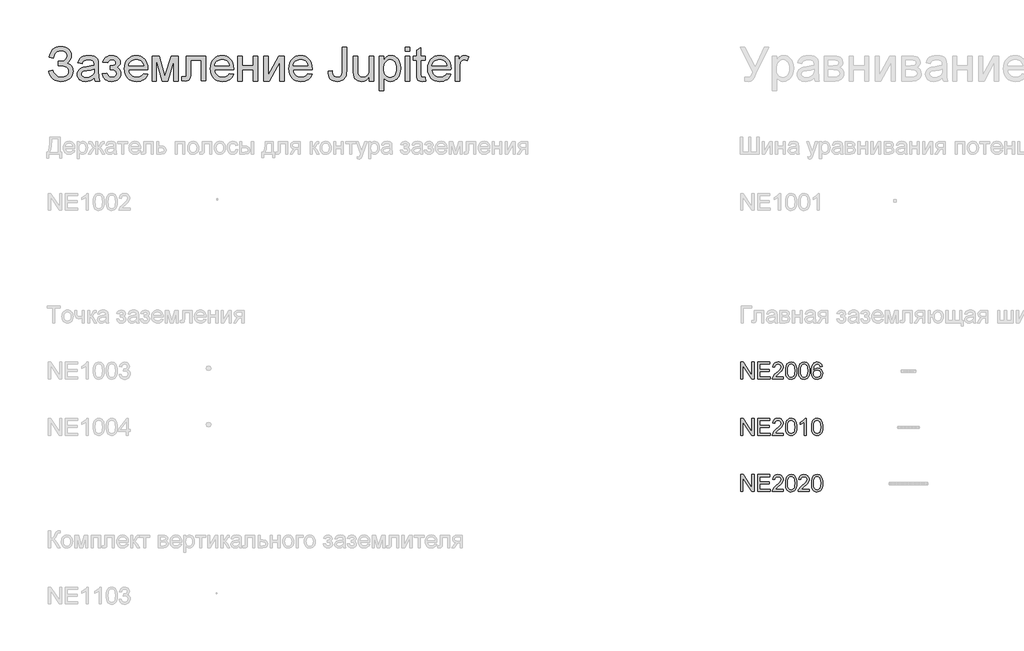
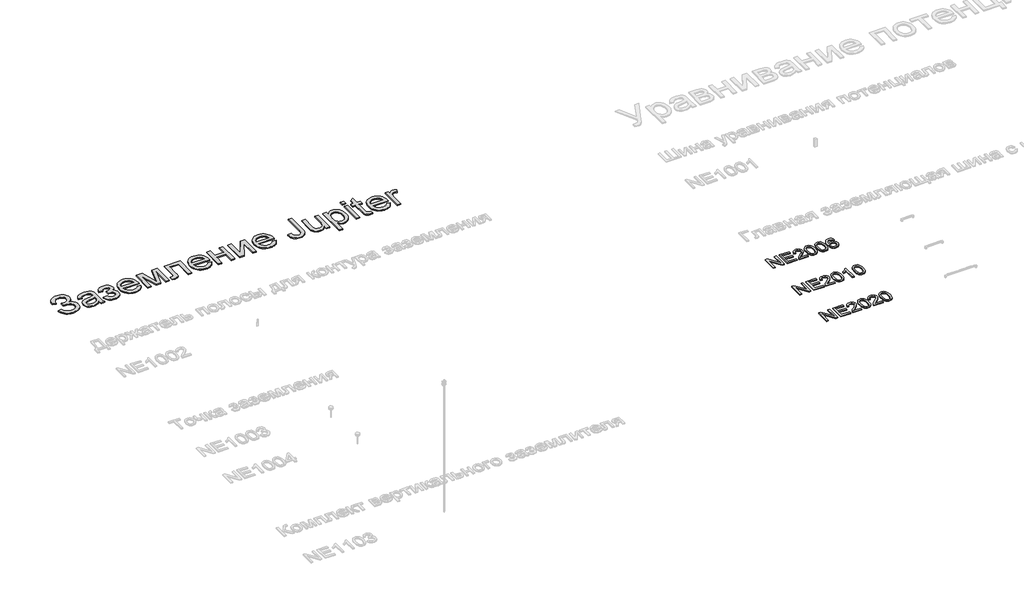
# One storey, part 78 of 124: 4 proxies.
"""IFC4 building model written with IfcOpenShell, lengths in millimetres."""

from ifc_helpers import new_model, si_unit, origin, origin_with_axes, place, context, project, spatial, polyline, outline, extrude, element, save

model = new_model("IFC4")

# Units and contexts
model_context = context("Model", 3, world=origin())
ifc_project = project(units=[si_unit("LENGTHUNIT", "METRE", prefix="MILLI")], contexts=[model_context])

# Site, building, storey
site = spatial("IfcSite", under=ifc_project)
building = spatial("IfcBuilding", under=site)
storey = spatial("IfcBuildingStorey", under=building, Name="Этаж 01", Elevation=0.0)

# Proxies
placement = place(None, origin())
element("IfcBuildingElementProxy", 1, Name="600 мм Arial", ObjectType="600 мм Arial", at=placement, inside=storey, context=model_context, shape_type="SweptSolid", body=[
    extrude(outline(polyline([(32944.5764277, -48604.9783386), (33019.9186603, -48586.1427805), (33026.0668881, -48606.5280415), (33035.8295566, -48626.9224996), (33066.1982153, -48667.739007), (33086.5282941, -48685.6042764), (33109.9209904, -48698.3651831), (33136.3763044, -48706.0217271), (33165.894236, -48708.5739085), (33195.9272024, -48706.6563236), (33222.6032455, -48700.9035689), (33245.9223655, -48691.3156444), (33265.8845623, -48677.8925501), (33281.8828305, -48661.7563261), (33293.310165, -48644.0290124), (33300.1665657, -48624.7106091), (33302.4520326, -48603.8011162), (33299.9550336, -48581.53046), (33292.4640364, -48561.6602337), (33279.9790412, -48544.1904374), (33262.5000479, -48529.1210712), (33240.7168353, -48516.9855639), (33215.319182, -48508.3173444), (33186.3070882, -48503.1164127), (33153.6805537, -48501.3827688), (33114.0964511, -48501.3827688), (33114.0964511, -48426.0405362), (33163.3006679, -48424.5138259), (33199.3714975, -48419.9336951), (33227.1649823, -48409.0811762), (33251.5371645, -48388.7373019), (33268.5333126, -48361.9370985), (33274.1986954, -48331.7155926), (33272.3133001, -48313.3536825), (33266.6571145, -48296.2333742), (33257.2301383, -48280.3546676), (33244.0323718, -48265.7175627), (33227.6156377, -48253.4532967), (33208.5317592, -48244.6931066), (33186.7807363, -48239.4369926), (33162.3625688, -48237.6849546), (33120.6263565, -48243.0744259), (33085.4752318, -48259.2428396), (33058.5462698, -48284.3139975), (33041.4765452, -48316.4117016), (33032.3714658, -48347.4977302), (33029.3364394, -48369.5338617), (32953.9942068, -48350.6983036), (32963.3223146, -48306.5524641), (32977.4006987, -48268.2927366), (32996.2293591, -48235.9191211), (33019.8082957, -48209.4316174), (33048.1375086, -48188.8302257), (33081.2169977, -48174.1149459), (33119.0467632, -48165.285778), (33161.6268048, -48162.342722), (33202.6502458, -48165.4007411), (33239.1947235, -48174.5747984), (33271.2602379, -48189.8648938), (33298.846789, -48211.2710274), (33321.0254748, -48236.7698482), (33336.8673932, -48264.3380052), (33346.3725443, -48293.9754984), (33349.540928, -48325.6823279), (33344.6113092, -48365.3308099), (33329.822453, -48400.2520083), (33305.1743594, -48430.4459231), (33270.6670282, -48455.9125542), (33292.5468099, -48463.900192), (33312.5687875, -48475.2079648), (33330.732961, -48489.8358727), (33347.0393304, -48507.7839155), (33360.4946144, -48528.3531176), (33370.1055315, -48550.844503), (33375.8720818, -48575.2580719), (33377.7942652, -48601.5938243), (33374.1062482, -48638.8556719), (33363.0421972, -48672.9445372), (33344.6021122, -48703.8604204), (33318.7859932, -48731.6033214), (33286.8814271, -48754.49018), (33250.1760011, -48770.8379361), (33208.669715, -48780.6465898), (33162.3625688, -48783.9161411), (33122.3278107, -48781.1202379), (33085.9534784, -48772.7325284), (33053.239572, -48758.7530126), (33024.1860914, -48739.1816905), (32998.7930367, -48714.018562), (32977.0604079, -48683.2636272), (32958.9882048, -48646.9168861), (32944.5764277, -48604.9783386)])), origin_with_axes(), (0.0, 0.0, 1.0), 20.0),
    extrude(outline(polyline([(33754.5054283, -48717.9916875), (33718.508175, -48748.8569869), (33681.444064, -48769.0537085), (33642.4669666, -48780.2005329), (33600.7307543, -48783.9161411), (33567.1845148, -48781.681258), (33537.7677508, -48774.9766086), (33512.4804622, -48763.802193), (33491.3226489, -48748.1580111), (33474.6162078, -48729.0373444), (33462.6830356, -48707.4334743), (33455.5231323, -48683.3464006), (33453.1364978, -48656.7761235), (33456.7417414, -48625.5429422), (33467.557472, -48597.1792403), (33484.2409205, -48572.8990286), (33505.4493175, -48553.9163177), (33530.3733227, -48539.5689199), (33558.2035956, -48529.1946476), (33623.3922852, -48517.8638822), (33700.426775, -48505.9445055), (33754.0639699, -48491.9649897), (33754.5054283, -48475.1895707), (33749.3182921, -48441.5651564), (33742.834372, -48429.1123508), (33733.7568837, -48419.5658131), (33718.0667166, -48410.0376694), (33698.955247, -48403.2318525), (33650.4684, -48397.7871989), (33605.5867966, -48401.4108366), (33574.2432506, -48412.2817496), (33552.8693067, -48432.3865006), (33537.8965095, -48463.7116525), (33462.5542769, -48454.2938734), (33475.6324818, -48413.0910899), (33495.1486217, -48380.7174744), (33522.9237123, -48355.9590161), (33560.7787696, -48337.6017045), (33607.0767187, -48326.2341509), (33660.1804847, -48322.4449663), (33711.1137469, -48325.7926925), (33751.4887959, -48335.835871), (33781.931031, -48350.9374269), (33803.0658516, -48369.4602853), (33817.0821556, -48392.3609395), (33826.1688409, -48420.5958826), (33829.8476609, -48486.5203362), (33829.8476609, -48580.2566685), (33833.6736336, -48711.1490824), (33839.3390164, -48743.5043039), (33848.683219, -48774.498362), (33773.3409864, -48774.498362), (33761.274457, -48748.3051639), (33754.5054283, -48717.9916875)]), holes=[polyline([(33754.5054283, -48567.3072223), (33703.8848657, -48579.8519984), (33632.9572171, -48590.4102116), (33568.1364095, -48602.6238939), (33551.26902, -48610.9748151), (33538.7794263, -48622.4895216), (33531.0539044, -48636.2850964), (33528.4787304, -48651.4786228), (33534.0889309, -48673.8826363), (33550.9195321, -48692.2399479), (33578.6026523, -48704.4904183), (33616.7704093, -48708.5739085), (33657.2374287, -48704.067354), (33692.9955587, -48690.5476907), (33721.9846599, -48670.6268807), (33742.1445932, -48646.9168861), (33751.0841257, -48622.4895216), (33754.0639699, -48588.644378), (33754.5054283, -48567.3072223)])]), origin_with_axes(), (0.0, 0.0, 1.0), 20.0),
    extrude(outline(polyline([(34037.0388006, -48576.7250014), (34037.0388006, -48501.3827688), (34096.488531, -48498.4397128), (34111.9395748, -48493.1973944), (34126.5077018, -48482.7679398), (34137.1027033, -48468.0710541), (34140.6343704, -48450.0264423), (34135.9070868, -48428.597316), (34121.7252359, -48411.987444), (34100.0753804, -48401.3372602), (34072.9440833, -48397.7871989), (34045.5184806, -48401.3188661), (34022.54425, -48411.9138676), (34004.0213915, -48429.5722033), (33989.9499052, -48454.2938734), (33905.1898935, -48444.8760943), (33914.9663575, -48416.1812987), (33927.6674834, -48391.3124758), (33943.2932711, -48370.2696257), (33961.8437208, -48353.0527483), (33983.3188322, -48339.6618437), (34007.7186055, -48330.0969118), (34035.0430407, -48324.3579527), (34065.2921378, -48322.4449663), (34098.695823, -48324.7764185), (34128.2735354, -48331.7707749), (34154.025275, -48343.4280356), (34175.9510419, -48359.7482006), (34193.4622249, -48379.3057272), (34205.9702127, -48400.6750726), (34213.4750055, -48423.8562368), (34215.976603, -48448.8492199), (34212.4173447, -48473.5708899), (34201.7395698, -48495.6438097), (34183.9432783, -48515.067979), (34159.0284702, -48531.843398), (34188.1095419, -48552.7758835), (34208.8396923, -48578.7851406), (34221.2557096, -48609.9447456), (34225.3943821, -48646.3282749), (34222.7686244, -48675.4967186), (34214.8913511, -48701.7864857), (34201.7625624, -48725.1975761), (34183.3822582, -48745.72999), (34160.2838675, -48762.4364311), (34133.000819, -48774.3696033), (34101.5331128, -48781.5295066), (34065.880749, -48783.9161411), (34031.129696, -48781.7088491), (34000.2322069, -48775.0869732), (33973.1882818, -48764.0505133), (33949.9979205, -48748.5994695), (33930.6611231, -48728.7338418), (33915.1778897, -48704.4536301), (33903.5482201, -48675.7588345), (33895.7721144, -48642.6494549), (33980.5321261, -48633.2316759), (33993.2240549, -48665.0902566), (34014.5244225, -48688.8554335), (34041.9684193, -48703.6442897), (34073.0912361, -48708.5739085), (34103.4047125, -48703.8466248), (34128.1263826, -48689.6647739), (34144.5707078, -48668.1252831), (34150.0521495, -48641.3250797), (34146.649241, -48620.0982886), (34136.4405157, -48601.7409771), (34122.3874234, -48587.9821904), (34107.4514144, -48580.5509741), (34051.7540804, -48576.283543), (34037.0388006, -48576.7250014)])), origin_with_axes(), (0.0, 0.0, 1.0), 20.0),
    extrude(outline(polyline([(34629.4759656, -48642.6494549), (34703.3466702, -48652.067234), (34692.0205033, -48681.6541435), (34676.7304079, -48707.7277799), (34657.476384, -48730.2881432), (34634.2584315, -48749.3352335), (34607.3156739, -48764.4643806), (34576.8872344, -48775.2709142), (34542.973113, -48781.7548344), (34505.5733096, -48783.9161411), (34458.8247051, -48780.1867374), (34417.1712662, -48768.9985262), (34380.6129929, -48750.3515075), (34349.1498853, -48724.2456815), (34323.8488011, -48691.4076149), (34305.776598, -48652.5638747), (34294.9332762, -48607.714461), (34291.3188356, -48556.8593737), (34294.9700644, -48504.2798395), (34305.9237508, -48457.9359052), (34324.1798948, -48417.8275706), (34349.7384965, -48383.9548359), (34381.1188307, -48357.044268), (34416.8401724, -48337.8224337), (34456.9025217, -48326.2893332), (34501.3058785, -48322.4449663), (34544.279094, -48326.2801361), (34583.1412283, -48337.7856455), (34617.8922813, -48356.9614945), (34648.5322529, -48383.8076831), (34673.5436301, -48417.6068414), (34691.4088995, -48457.6415996), (34702.1280611, -48503.9119575), (34705.701115, -48556.4179153), (34705.2596566, -48576.7250014), (34366.6610682, -48576.7250014), (34371.0250684, -48606.7901575), (34379.702485, -48633.1213113), (34392.6933179, -48655.7184628), (34409.9975673, -48674.5816121), (34430.6587398, -48689.4532418), (34453.7203424, -48700.0758344), (34479.182375, -48706.4493899), (34507.0448376, -48708.5739085), (34547.1439751, -48704.6375711), (34580.9155422, -48692.8285591), (34608.3595391, -48672.4111083), (34629.4759656, -48642.6494549)]), holes=[polyline([(34366.6610682, -48501.3827688), (34630.3588824, -48501.3827688), (34620.1685511, -48461.5779369), (34611.4037626, -48445.924558), (34600.1925588, -48433.1038705), (34579.6463494, -48417.6528267), (34556.2674486, -48406.6163668), (34530.0558564, -48399.9944909), (34501.0115729, -48397.7871989), (34474.5194707, -48399.548434), (34450.2254634, -48404.8321391), (34428.1295511, -48413.6383144), (34408.2317337, -48425.9669598), (34391.5344896, -48441.2478581), (34379.0402974, -48458.9107924), (34370.7491569, -48478.9557627), (34366.6610682, -48501.3827688)])]), origin_with_axes(), (0.0, 0.0, 1.0), 20.0),
    extrude(outline(polyline([(34781.0433476, -48331.8627454), (34910.6849627, -48331.8627454), (35010.6017126, -48686.2066832), (35118.3175608, -48331.8627454), (35242.5145224, -48331.8627454), (35242.5145224, -48774.498362), (35167.1722897, -48774.498362), (35167.1722897, -48418.0942851), (35058.8678304, -48774.498362), (34959.9811501, -48774.498362), (34856.3855802, -48401.0245605), (34856.3855802, -48774.498362), (34781.0433476, -48774.498362), (34781.0433476, -48331.8627454)])), origin_with_axes(), (0.0, 0.0, 1.0), 20.0),
    extrude(outline(polyline([(35393.1989876, -48331.8627454), (35732.2390343, -48331.8627454), (35732.2390343, -48774.0569036), (35656.8968017, -48774.0569036), (35656.8968017, -48407.204978), (35468.5412202, -48407.204978), (35468.5412202, -48618.3692432), (35467.2720273, -48679.6583836), (35463.4644487, -48715.7843956), (35453.9546991, -48737.8389212), (35435.5789934, -48756.9136026), (35407.6935382, -48770.1021722), (35369.6545399, -48774.498362), (35308.4389759, -48770.6723893), (35308.4389759, -48699.1561294), (35342.1369667, -48699.1561294), (35362.5728115, -48697.9973011), (35376.2028394, -48694.5208163), (35384.7193076, -48688.5243397), (35389.8144732, -48679.8055364), (35393.1989876, -48614.1018121), (35393.1989876, -48331.8627454)])), origin_with_axes(), (0.0, 0.0, 1.0), 20.0),
    extrude(outline(polyline([(36155.156176, -48642.6494549), (36229.0268806, -48652.067234), (36217.7007137, -48681.6541435), (36202.4106183, -48707.7277799), (36183.1565944, -48730.2881432), (36159.9386419, -48749.3352335), (36132.9958843, -48764.4643806), (36102.5674448, -48775.2709142), (36068.6533234, -48781.7548344), (36031.25352, -48783.9161411), (35984.5049155, -48780.1867374), (35942.8514766, -48768.9985262), (35906.2932033, -48750.3515075), (35874.8300957, -48724.2456815), (35849.5290115, -48691.4076149), (35831.4568084, -48652.5638747), (35820.6134866, -48607.714461), (35816.999046, -48556.8593737), (35820.6502748, -48504.2798395), (35831.6039612, -48457.9359052), (35849.8601052, -48417.8275706), (35875.4187069, -48383.9548359), (35906.7990411, -48357.044268), (35942.5203828, -48337.8224337), (35982.5827321, -48326.2893332), (36026.9860889, -48322.4449663), (36069.9593044, -48326.2801361), (36108.8214387, -48337.7856455), (36143.5724917, -48356.9614945), (36174.2124633, -48383.8076831), (36199.2238405, -48417.6068414), (36217.0891099, -48457.6415996), (36227.8082715, -48503.9119575), (36231.3813254, -48556.4179153), (36230.939867, -48576.7250014), (35892.3412786, -48576.7250014), (35896.7052788, -48606.7901575), (35905.3826954, -48633.1213113), (35918.3735283, -48655.7184628), (35935.6777777, -48674.5816121), (35956.3389502, -48689.4532418), (35979.4005528, -48700.0758344), (36004.8625854, -48706.4493899), (36032.725048, -48708.5739085), (36072.8241855, -48704.6375711), (36106.5957526, -48692.8285591), (36134.0397495, -48672.4111083), (36155.156176, -48642.6494549)]), holes=[polyline([(35892.3412786, -48501.3827688), (36156.0390928, -48501.3827688), (36145.8487615, -48461.5779369), (36137.083973, -48445.924558), (36125.8727692, -48433.1038705), (36105.3265597, -48417.6528267), (36081.947659, -48406.6163668), (36055.7360668, -48399.9944909), (36026.6917833, -48397.7871989), (36000.1996811, -48399.548434), (35975.9056738, -48404.8321391), (35953.8097615, -48413.6383144), (35933.9119441, -48425.9669598), (35917.2147, -48441.2478581), (35904.7205078, -48458.9107924), (35896.4293673, -48478.9557627), (35892.3412786, -48501.3827688)])]), origin_with_axes(), (0.0, 0.0, 1.0), 20.0),
    extrude(outline(polyline([(36306.723558, -48331.8627454), (36382.0657906, -48331.8627454), (36382.0657906, -48501.3827688), (36579.8391512, -48501.3827688), (36579.8391512, -48331.8627454), (36655.1813838, -48331.8627454), (36655.1813838, -48774.498362), (36579.8391512, -48774.498362), (36579.8391512, -48576.7250014), (36382.0657906, -48576.7250014), (36382.0657906, -48774.498362), (36306.723558, -48774.498362), (36306.723558, -48331.8627454)])), origin_with_axes(), (0.0, 0.0, 1.0), 20.0),
    extrude(outline(polyline([(36768.1947328, -48331.8627454), (36843.5369654, -48331.8627454), (36843.5369654, -48669.4312642), (37028.6551853, -48331.8627454), (37126.0703377, -48331.8627454), (37126.0703377, -48774.498362), (37050.7281051, -48774.498362), (37050.7281051, -48438.9899824), (36866.7871075, -48774.498362), (36768.1947328, -48774.498362), (36768.1947328, -48331.8627454)])), origin_with_axes(), (0.0, 0.0, 1.0), 20.0),
    extrude(outline(polyline([(37548.9874793, -48642.6494549), (37622.858184, -48652.067234), (37611.532017, -48681.6541435), (37596.2419216, -48707.7277799), (37576.9878977, -48730.2881432), (37553.7699453, -48749.3352335), (37526.8271876, -48764.4643806), (37496.3987481, -48775.2709142), (37462.4846267, -48781.7548344), (37425.0848233, -48783.9161411), (37378.3362188, -48780.1867374), (37336.6827799, -48768.9985262), (37300.1245066, -48750.3515075), (37268.661399, -48724.2456815), (37243.3603148, -48691.4076149), (37225.2881118, -48652.5638747), (37214.44479, -48607.714461), (37210.8303494, -48556.8593737), (37214.4815782, -48504.2798395), (37225.4352646, -48457.9359052), (37243.6914086, -48417.8275706), (37269.2500102, -48383.9548359), (37300.6303444, -48357.044268), (37336.3516861, -48337.8224337), (37376.4140354, -48326.2893332), (37420.8173922, -48322.4449663), (37463.7906078, -48326.2801361), (37502.652742, -48337.7856455), (37537.403795, -48356.9614945), (37568.0437667, -48383.8076831), (37593.0551438, -48417.6068414), (37610.9204132, -48457.6415996), (37621.6395748, -48503.9119575), (37625.2126287, -48556.4179153), (37624.7711703, -48576.7250014), (37286.172582, -48576.7250014), (37290.5365821, -48606.7901575), (37299.2139987, -48633.1213113), (37312.2048316, -48655.7184628), (37329.509081, -48674.5816121), (37350.1702536, -48689.4532418), (37373.2318561, -48700.0758344), (37398.6938887, -48706.4493899), (37426.5563513, -48708.5739085), (37466.6554888, -48704.6375711), (37500.427056, -48692.8285591), (37527.8710528, -48672.4111083), (37548.9874793, -48642.6494549)]), holes=[polyline([(37286.172582, -48501.3827688), (37549.8703961, -48501.3827688), (37539.6800648, -48461.5779369), (37530.9152763, -48445.924558), (37519.7040725, -48433.1038705), (37499.1578631, -48417.6528267), (37475.7789623, -48406.6163668), (37449.5673701, -48399.9944909), (37420.5230866, -48397.7871989), (37394.0309844, -48399.548434), (37369.7369772, -48404.8321391), (37347.6410648, -48413.6383144), (37327.7432474, -48425.9669598), (37311.0460034, -48441.2478581), (37298.5518111, -48458.9107924), (37290.2606706, -48478.9557627), (37286.172582, -48501.3827688)])]), origin_with_axes(), (0.0, 0.0, 1.0), 20.0),
    extrude(outline(polyline([(37907.746001, -48605.2726442), (37983.0882336, -48595.5605595), (37985.746181, -48625.515351), (37990.9241201, -48650.3381886), (37998.6220509, -48670.0290724), (38008.8399733, -48684.5880024), (38021.4215375, -48695.0818363), (38036.2103937, -48702.5774319), (38053.2065419, -48707.0747893), (38072.4099821, -48708.5739085), (38100.240255, -48705.171), (38123.9870378, -48694.9622746), (38142.3075611, -48678.8858315), (38153.8590558, -48657.8797695), (38159.984291, -48627.4743226), (38162.0260361, -48583.1997245), (38162.0260361, -48171.7605011), (38237.3682687, -48171.7605011), (38237.3682687, -48581.8753493), (38232.8249261, -48648.9586311), (38227.1457478, -48676.0853298), (38219.1948981, -48698.9354002), (38208.7746406, -48718.4193504), (38195.6872386, -48735.4476882), (38179.9326922, -48750.0204137), (38161.5110013, -48762.137527), (38118.5975666, -48778.4714875), (38068.8783149, -48783.9161411), (38031.7498245, -48781.1064423), (37999.2382532, -48772.6773461), (37971.3436009, -48758.6288524), (37948.0658677, -48738.9609613), (37929.8189207, -48713.747249), (37917.0166273, -48683.0612921), (37909.6589874, -48646.9030905), (37907.746001, -48605.2726442)])), origin_with_axes(), (0.0, 0.0, 1.0), 20.0),
    extrude(outline(polyline([(38642.332769, -48774.498362), (38642.332769, -48698.4203654), (38615.0727131, -48735.8247673), (38583.324497, -48762.5421972), (38547.0881204, -48778.5726551), (38506.3635836, -48783.9161411), (38469.6673545, -48780.1637447), (38435.5095113, -48768.9065557), (38406.8515039, -48751.9839839), (38386.6547823, -48731.2354394), (38373.0615426, -48706.0355227), (38364.2139806, -48675.7588345), (38359.7993967, -48605.7141026), (38359.7993967, -48331.8627454), (38435.1416293, -48331.8627454), (38435.1416293, -48570.2502783), (38436.2820635, -48617.9277849), (38439.703366, -48647.0640389), (38450.6846436, -48672.6870198), (38469.5018077, -48692.1663715), (38494.9040594, -48704.4720242), (38525.6406001, -48708.5739085), (38558.1429744, -48704.3800537), (38588.5484213, -48691.7984895), (38613.6195793, -48671.988044), (38630.1190867, -48646.1075457), (38639.2793484, -48610.6621154), (38642.332769, -48562.1568744), (38642.332769, -48331.8627454), (38717.6750016, -48331.8627454), (38717.6750016, -48774.498362), (38642.332769, -48774.498362)])), origin_with_axes(), (0.0, 0.0, 1.0), 20.0),
    extrude(outline(polyline([(38821.2705714, -48944.0183854), (38821.2705714, -48331.8627454), (38896.6128041, -48331.8627454), (38896.6128041, -48405.73345), (38921.1873213, -48369.2947384), (38948.7048946, -48343.2670873), (38980.7842045, -48327.6504966), (39019.043932, -48322.4449663), (39045.3199036, -48324.2659822), (39069.9955884, -48329.7290298), (39093.0709865, -48338.8341092), (39114.546098, -48351.5812203), (39133.9518732, -48367.6392694), (39150.8192627, -48386.6771627), (39165.1482664, -48408.6949001), (39176.9388844, -48433.6924817), (39192.721022, -48489.2058747), (39197.9817345, -48549.7960393), (39192.0404403, -48614.2305708), (39184.6138225, -48643.8956552), (39174.2165576, -48671.8592853), (39160.9911999, -48697.3902958), (39145.0803036, -48719.7575211), (39126.4838687, -48738.9609613), (39105.2018953, -48755.0006163), (39082.2782485, -48767.6511584), (39058.7567934, -48776.6872599), (39034.6375301, -48782.1089208), (39009.9204586, -48783.9161411), (38975.2843687, -48779.0784928), (38944.363887, -48764.5655481), (38917.8947775, -48742.6581753), (38896.6128041, -48715.6372428), (38896.6128041, -48944.0183854), (38821.2705714, -48944.0183854)]), holes=[polyline([(38896.6128041, -48556.7122209), (38898.6499506, -48593.0221738), (38904.7613902, -48624.2553552), (38914.947123, -48650.411765), (38929.2071488, -48671.4914034), (38946.3734424, -48687.7149993), (38965.2779785, -48699.3032822), (38985.9207569, -48706.2562519), (39008.3017778, -48708.5739085), (39031.0046954, -48706.1734784), (39052.0245529, -48698.9721884), (39071.3613503, -48686.9700383), (39089.0150875, -48670.1670282), (39103.7257688, -48648.3240347), (39114.2333983, -48621.2019346), (39120.537976, -48588.8007279), (39122.6395019, -48551.1204145), (39120.5885598, -48515.1231613), (39114.4357334, -48483.9451622), (39104.1810228, -48457.5864173), (39089.8244279, -48436.0469264), (39072.6167476, -48419.3082957), (39053.8087806, -48407.3521308), (39033.4005269, -48400.1784319), (39011.3919865, -48397.7871989), (38989.4524241, -48400.3301832), (38968.8096456, -48407.9591361), (38949.4636512, -48420.6740576), (38931.4144408, -48438.4749476), (38916.1887247, -48461.1226829), (38905.3132132, -48488.3781403), (38898.7879063, -48520.2413196), (38896.6128041, -48556.7122209)])]), origin_with_axes(), (0.0, 0.0, 1.0), 20.0),
    extrude(outline(polyline([(39282.7417462, -48247.1027337), (39282.7417462, -48171.7605011), (39358.0839788, -48171.7605011), (39358.0839788, -48247.1027337), (39282.7417462, -48247.1027337)])), origin_with_axes(), (0.0, 0.0, 1.0), 20.0),
    extrude(outline(polyline([(39282.7417462, -48774.498362), (39282.7417462, -48331.8627454), (39358.0839788, -48331.8627454), (39358.0839788, -48774.498362), (39282.7417462, -48774.498362)])), origin_with_axes(), (0.0, 0.0, 1.0), 20.0),
    extrude(outline(polyline([(39631.199572, -48711.6641172), (39640.6173511, -48776.705654), (39584.2578294, -48783.9161411), (39548.0950293, -48780.7891441), (39521.1292791, -48771.4081532), (39502.0729917, -48756.9503908), (39489.6385803, -48738.5930793), (39482.7959752, -48707.0655923), (39480.5151068, -48653.0973036), (39480.5151068, -48407.204978), (39424.0084323, -48407.204978), (39424.0084323, -48331.8627454), (39480.5151068, -48331.8627454), (39480.5151068, -48224.29405), (39555.8573394, -48180.0010578), (39555.8573394, -48331.8627454), (39631.199572, -48331.8627454), (39631.199572, -48407.204978), (39555.8573394, -48407.204978), (39555.8573394, -48650.8900116), (39559.830465, -48689.7383503), (39572.7063348, -48703.4971369), (39583.5772477, -48707.3047156), (39598.3844981, -48708.5739085), (39631.199572, -48711.6641172)])), origin_with_axes(), (0.0, 0.0, 1.0), 20.0),
    extrude(outline(polyline([(40016.4455974, -48642.6494549), (40090.316302, -48652.067234), (40078.9901351, -48681.6541435), (40063.7000397, -48707.7277799), (40044.4460157, -48730.2881432), (40021.2280633, -48749.3352335), (39994.2853057, -48764.4643806), (39963.8568662, -48775.2709142), (39929.9427447, -48781.7548344), (39892.5429414, -48783.9161411), (39845.7943369, -48780.1867374), (39804.140898, -48768.9985262), (39767.5826247, -48750.3515075), (39736.119517, -48724.2456815), (39710.8184328, -48691.4076149), (39692.7462298, -48652.5638747), (39681.902908, -48607.714461), (39678.2884674, -48556.8593737), (39681.9396962, -48504.2798395), (39692.8933826, -48457.9359052), (39711.1495266, -48417.8275706), (39736.7081282, -48383.9548359), (39768.0884624, -48357.044268), (39803.8098042, -48337.8224337), (39843.8721534, -48326.2893332), (39888.2755103, -48322.4449663), (39931.2487258, -48326.2801361), (39970.1108601, -48337.7856455), (40004.861913, -48356.9614945), (40035.5018847, -48383.8076831), (40060.5132619, -48417.6068414), (40078.3785313, -48457.6415996), (40089.0976929, -48503.9119575), (40092.6707468, -48556.4179153), (40092.2292884, -48576.7250014), (39753.6307, -48576.7250014), (39757.9947002, -48606.7901575), (39766.6721167, -48633.1213113), (39779.6629497, -48655.7184628), (39796.967199, -48674.5816121), (39817.6283716, -48689.4532418), (39840.6899742, -48700.0758344), (39866.1520068, -48706.4493899), (39894.0144694, -48708.5739085), (39934.1136068, -48704.6375711), (39967.885174, -48692.8285591), (39995.3291708, -48672.4111083), (40016.4455974, -48642.6494549)]), holes=[polyline([(39753.6307, -48501.3827688), (40017.3285142, -48501.3827688), (40007.1381829, -48461.5779369), (39998.3733944, -48445.924558), (39987.1621906, -48433.1038705), (39966.6159811, -48417.6528267), (39943.2370803, -48406.6163668), (39917.0254882, -48399.9944909), (39887.9812047, -48397.7871989), (39861.4891025, -48399.548434), (39837.1950952, -48404.8321391), (39815.0991829, -48413.6383144), (39795.2013655, -48425.9669598), (39778.5041214, -48441.2478581), (39766.0099292, -48458.9107924), (39757.7187887, -48478.9557627), (39753.6307, -48501.3827688)])]), origin_with_axes(), (0.0, 0.0, 1.0), 20.0),
    extrude(outline(polyline([(40168.0129794, -48774.498362), (40168.0129794, -48331.8627454), (40233.9374329, -48331.8627454), (40233.9374329, -48397.3457405), (40258.291221, -48359.3803186), (40280.7320227, -48337.0130933), (40303.2464008, -48326.0869981), (40327.8209181, -48322.4449663), (40365.3448816, -48328.2575019), (40403.4574563, -48345.6951084), (40378.2943278, -48413.2382427), (40351.8068242, -48401.6499599), (40325.3193205, -48397.7871989), (40302.8233365, -48401.5028071), (40282.7185855, -48412.6496315), (40266.4765954, -48430.3815437), (40255.5688942, -48453.852415), (40246.4086326, -48495.9381153), (40243.355212, -48541.8497883), (40243.355212, -48774.498362), (40168.0129794, -48774.498362)])), origin_with_axes(), (0.0, 0.0, 1.0), 20.0),
])
element("IfcBuildingElementProxy", 2, Name="300", ObjectType="300", at=placement, inside=storey, context=model_context, shape_type="SweptSolid", body=[
    extrude(outline(polyline([(45239.8675381, -54074.498362), (45239.8675381, -53773.1294316), (45280.1874048, -53773.1294316), (45437.6408988, -54011.8848464), (45437.6408988, -53773.1294316), (45475.3120151, -53773.1294316), (45475.3120151, -54074.498362), (45434.9921484, -54074.498362), (45277.5386545, -53835.6693707), (45277.5386545, -54074.498362), (45239.8675381, -54074.498362)])), origin_with_axes(), (0.0, 0.0, 1.0), 20.0),
    extrude(outline(polyline([(45541.2364686, -54074.498362), (45541.2364686, -53773.1294316), (45757.8453874, -53773.1294316), (45757.8453874, -53810.8005479), (45578.9075849, -53810.8005479), (45578.9075849, -53900.2694491), (45748.4276083, -53900.2694491), (45748.4276083, -53937.9405654), (45578.9075849, -53937.9405654), (45578.9075849, -54036.8272457), (45762.5542769, -54036.8272457), (45762.5542769, -54074.498362), (45541.2364686, -54074.498362)])), origin_with_axes(), (0.0, 0.0, 1.0), 20.0),
    extrude(outline(polyline([(45997.9987538, -54036.8272457), (45997.9987538, -54074.498362), (45800.2253932, -54074.498362), (45804.2720951, -54048.5258931), (45813.5611155, -54028.2280041), (45827.1543552, -54008.5371203), (45846.8176479, -53987.9265315), (45874.316827, -53964.8695274), (45914.9677875, -53928.7619096), (45939.3583638, -53902.1088591), (45951.5536519, -53880.4773977), (45955.618748, -53859.4345476), (45951.7835782, -53840.5713983), (45940.2780688, -53824.8904283), (45922.5921418, -53814.323018), (45900.2157195, -53810.8005479), (45876.717257, -53814.2402445), (45858.461113, -53824.5593345), (45846.6796921, -53840.9484774), (45842.605399, -53862.5983328), (45804.9342827, -53857.8894432), (45814.0669533, -53821.4507316), (45822.6133119, -53806.9147943), (45833.8130194, -53794.8344693), (45847.4085583, -53785.3385153), (45863.1424114, -53778.555691), (45901.0250599, -53773.1294316), (45921.2148836, -53774.6377477), (45939.1836198, -53779.1626963), (45954.9312685, -53786.7042772), (45968.4578296, -53797.2624904), (45979.3218448, -53810.0555868), (45987.0818556, -53824.3018171), (45991.7378621, -53840.0011812), (45993.2898643, -53857.1536793), (45991.6160012, -53875.1707), (45986.594412, -53892.875021), (45977.6824706, -53910.8828446), (45964.3375513, -53929.8103733), (45943.0647749, -53952.4075249), (45910.3692626, -53981.4242172), (45867.0327635, -54017.6605937), (45850.0366153, -54036.8272457), (45997.9987538, -54036.8272457)])), origin_with_axes(), (0.0, 0.0, 1.0), 20.0),
    extrude(outline(polyline([(46035.6698701, -53926.2419179), (46038.4381821, -53878.0033913), (46046.7431182, -53839.5321317), (46060.5019048, -53810.2395278), (46079.6317685, -53789.5369685), (46104.2706652, -53777.2313158), (46134.5565504, -53773.1294316), (46157.7699043, -53775.5574527), (46178.555237, -53782.8415162), (46195.9376613, -53794.6965135), (46208.9422898, -53810.8373361), (46218.7647391, -53831.1260281), (46226.6006256, -53855.4246339), (46231.7325794, -53886.2807362), (46233.4432307, -53926.2419179), (46230.7025099, -53974.2045331), (46222.4803473, -54012.5838222), (46208.8043341, -54041.9040172), (46189.7020615, -54062.68935), (46165.0079826, -54075.0777761), (46134.5565504, -54079.2072515), (46113.8080059, -54077.4138268), (46095.4139061, -54072.0335526), (46079.3742511, -54063.066429), (46065.6890409, -54050.5124559), (46052.5556537, -54027.8187353), (46043.1746628, -53999.5424055), (46037.5460683, -53965.6834664), (46035.6698701, -53926.2419179)]), holes=[polyline([(46073.3409864, -53926.1683415), (46077.7555704, -53985.4249339), (46083.2738003, -54005.6929326), (46090.9993222, -54019.7207329), (46110.7177971, -54036.0822847), (46134.5565504, -54041.5361352), (46158.3953037, -54036.0638906), (46178.1137786, -54019.6471565), (46185.8393005, -54005.5963636), (46191.3575305, -53985.3329634), (46195.7721144, -53926.1683415), (46191.5046833, -53868.2453214), (46186.1703943, -53848.0440013), (46178.7023898, -53833.682808), (46159.0207031, -53816.5211129), (46134.115092, -53810.8005479), (46110.5338561, -53815.8405312), (46091.5879334, -53830.9604812), (46083.6048941, -53846.595466), (46077.9027232, -53867.6751043), (46073.3409864, -53926.1683415)])]), origin_with_axes(), (0.0, 0.0, 1.0), 20.0),
    extrude(outline(polyline([(46266.4054575, -53926.2419179), (46269.1737695, -53878.0033913), (46277.4787055, -53839.5321317), (46291.2374922, -53810.2395278), (46310.3673559, -53789.5369685), (46335.0062525, -53777.2313158), (46365.2921378, -53773.1294316), (46388.5054917, -53775.5574527), (46409.2908244, -53782.8415162), (46426.6732487, -53794.6965135), (46439.6778772, -53810.8373361), (46449.5003265, -53831.1260281), (46457.336213, -53855.4246339), (46462.4681668, -53886.2807362), (46464.1788181, -53926.2419179), (46461.4380972, -53974.2045331), (46453.2159346, -54012.5838222), (46439.5399215, -54041.9040172), (46420.4376489, -54062.68935), (46395.7435699, -54075.0777761), (46365.2921378, -54079.2072515), (46344.5435933, -54077.4138268), (46326.1494935, -54072.0335526), (46310.1098385, -54063.066429), (46296.4246283, -54050.5124559), (46283.2912411, -54027.8187353), (46273.9102502, -53999.5424055), (46268.2816557, -53965.6834664), (46266.4054575, -53926.2419179)]), holes=[polyline([(46304.0765738, -53926.1683415), (46308.4911577, -53985.4249339), (46314.0093877, -54005.6929326), (46321.7349096, -54019.7207329), (46341.4533845, -54036.0822847), (46365.2921378, -54041.5361352), (46389.1308911, -54036.0638906), (46408.849366, -54019.6471565), (46416.5748879, -54005.5963636), (46422.0931178, -53985.3329634), (46426.5077018, -53926.1683415), (46422.2402706, -53868.2453214), (46416.9059817, -53848.0440013), (46409.4379772, -53833.682808), (46389.7562905, -53816.5211129), (46364.8506794, -53810.8005479), (46341.2694435, -53815.8405312), (46322.3235208, -53830.9604812), (46314.3404815, -53846.595466), (46308.6383105, -53867.6751043), (46304.0765738, -53926.1683415)])]), origin_with_axes(), (0.0, 0.0, 1.0), 20.0),
    extrude(outline(polyline([(46690.2055159, -53853.1805537), (46652.5343996, -53857.8894432), (46646.4643467, -53839.219432), (46638.2605782, -53826.4723209), (46621.1724595, -53814.7184911), (46600.5158855, -53810.8005479), (46583.0047025, -53813.0814162), (46566.5235892, -53819.9240213), (46552.3693294, -53834.3357985), (46540.8086377, -53854.1738351), (46533.0003423, -53882.2340343), (46530.1032716, -53921.3122992), (46545.2140246, -53903.6815546), (46563.3230158, -53891.2563402), (46583.4185698, -53883.8895033), (46604.4890111, -53881.4338909), (46622.5888052, -53883.1123525), (46639.2906478, -53888.1477373), (46654.5945388, -53896.5400454), (46668.5004782, -53908.2892766), (46680.0565714, -53922.6964552), (46688.3109237, -53939.0626055), (46693.263535, -53957.3877274), (46694.9144055, -53977.6718209), (46691.8058026, -54004.6467682), (46682.479994, -54029.6535468), (46667.7095319, -54050.8619438), (46648.2669685, -54066.4417463), (46625.0352205, -54076.0158752), (46598.8972047, -54079.2072515), (46576.4403082, -54077.0919301), (46556.1585139, -54070.7459657), (46538.051822, -54060.1693583), (46522.1202323, -54045.362108), (46509.1316986, -54025.6988153), (46499.8541746, -54000.554081), (46494.2876601, -53969.9279049), (46492.4321553, -53933.820287), (46494.4922945, -53893.339472), (46500.672712, -53858.7907541), (46510.9734079, -53830.1741334), (46525.3943821, -53807.4896099), (46541.0247684, -53792.4570319), (46559.1475552, -53781.7194761), (46579.7627425, -53775.2769427), (46602.8703303, -53773.1294316), (46635.9245275, -53778.4453264), (46662.3936371, -53794.3930109), (46680.9348897, -53819.7216862), (46690.2055159, -53853.1805537)]), holes=[polyline([(46530.1032716, -53977.0832097), (46532.2829725, -53993.7758552), (46538.8220749, -54009.7143427), (46548.975618, -54023.417947), (46561.9986406, -54033.4059431), (46577.7163989, -54039.5035872), (46595.9541488, -54041.5361352), (46620.8137746, -54037.3238864), (46640.3575056, -54024.6871399), (46653.0218433, -54004.8215121), (46657.2432892, -53978.9226197), (46653.0770256, -53954.0629938), (46640.5782348, -53935.107874), (46620.70341, -53923.1057239), (46594.4090444, -53919.1050072), (46569.5862068, -53923.1057239), (46548.8284652, -53935.107874), (46534.78457, -53953.6031413), (46530.1032716, -53977.0832097)])]), origin_with_axes(), (0.0, 0.0, 1.0), 20.0),
])
element("IfcBuildingElementProxy", 3, Name="300", ObjectType="300", at=placement, inside=storey, context=model_context, shape_type="SweptSolid", body=[
    extrude(outline(polyline([(45239.8675381, -55074.498362), (45239.8675381, -54773.1294316), (45280.1874048, -54773.1294316), (45437.6408988, -55011.8848464), (45437.6408988, -54773.1294316), (45475.3120151, -54773.1294316), (45475.3120151, -55074.498362), (45434.9921484, -55074.498362), (45277.5386545, -54835.6693707), (45277.5386545, -55074.498362), (45239.8675381, -55074.498362)])), origin_with_axes(), (0.0, 0.0, 1.0), 20.0),
    extrude(outline(polyline([(45541.2364686, -55074.498362), (45541.2364686, -54773.1294316), (45757.8453874, -54773.1294316), (45757.8453874, -54810.8005479), (45578.9075849, -54810.8005479), (45578.9075849, -54900.2694491), (45748.4276083, -54900.2694491), (45748.4276083, -54937.9405654), (45578.9075849, -54937.9405654), (45578.9075849, -55036.8272457), (45762.5542769, -55036.8272457), (45762.5542769, -55074.498362), (45541.2364686, -55074.498362)])), origin_with_axes(), (0.0, 0.0, 1.0), 20.0),
    extrude(outline(polyline([(45997.9987538, -55036.8272457), (45997.9987538, -55074.498362), (45800.2253932, -55074.498362), (45804.2720951, -55048.5258931), (45813.5611155, -55028.2280041), (45827.1543552, -55008.5371203), (45846.8176479, -54987.9265315), (45874.316827, -54964.8695274), (45914.9677875, -54928.7619096), (45939.3583638, -54902.1088591), (45951.5536519, -54880.4773977), (45955.618748, -54859.4345476), (45951.7835782, -54840.5713983), (45940.2780688, -54824.8904283), (45922.5921418, -54814.323018), (45900.2157195, -54810.8005479), (45876.717257, -54814.2402445), (45858.461113, -54824.5593345), (45846.6796921, -54840.9484774), (45842.605399, -54862.5983328), (45804.9342827, -54857.8894432), (45814.0669533, -54821.4507316), (45822.6133119, -54806.9147943), (45833.8130194, -54794.8344693), (45847.4085583, -54785.3385153), (45863.1424114, -54778.555691), (45901.0250599, -54773.1294316), (45921.2148836, -54774.6377477), (45939.1836198, -54779.1626963), (45954.9312685, -54786.7042772), (45968.4578296, -54797.2624904), (45979.3218448, -54810.0555868), (45987.0818556, -54824.3018171), (45991.7378621, -54840.0011812), (45993.2898643, -54857.1536793), (45991.6160012, -54875.1707), (45986.594412, -54892.875021), (45977.6824706, -54910.8828446), (45964.3375513, -54929.8103733), (45943.0647749, -54952.4075249), (45910.3692626, -54981.4242172), (45867.0327635, -55017.6605937), (45850.0366153, -55036.8272457), (45997.9987538, -55036.8272457)])), origin_with_axes(), (0.0, 0.0, 1.0), 20.0),
    extrude(outline(polyline([(46035.6698701, -54926.2419179), (46038.4381821, -54878.0033913), (46046.7431182, -54839.5321317), (46060.5019048, -54810.2395278), (46079.6317685, -54789.5369685), (46104.2706652, -54777.2313158), (46134.5565504, -54773.1294316), (46157.7699043, -54775.5574527), (46178.555237, -54782.8415162), (46195.9376613, -54794.6965135), (46208.9422898, -54810.8373361), (46218.7647391, -54831.1260281), (46226.6006256, -54855.4246339), (46231.7325794, -54886.2807362), (46233.4432307, -54926.2419179), (46230.7025099, -54974.2045331), (46222.4803473, -55012.5838222), (46208.8043341, -55041.9040172), (46189.7020615, -55062.68935), (46165.0079826, -55075.0777761), (46134.5565504, -55079.2072515), (46113.8080059, -55077.4138268), (46095.4139061, -55072.0335526), (46079.3742511, -55063.066429), (46065.6890409, -55050.5124559), (46052.5556537, -55027.8187353), (46043.1746628, -54999.5424055), (46037.5460683, -54965.6834664), (46035.6698701, -54926.2419179)]), holes=[polyline([(46073.3409864, -54926.1683415), (46077.7555704, -54985.4249339), (46083.2738003, -55005.6929326), (46090.9993222, -55019.7207329), (46110.7177971, -55036.0822847), (46134.5565504, -55041.5361352), (46158.3953037, -55036.0638906), (46178.1137786, -55019.6471565), (46185.8393005, -55005.5963636), (46191.3575305, -54985.3329634), (46195.7721144, -54926.1683415), (46191.5046833, -54868.2453214), (46186.1703943, -54848.0440013), (46178.7023898, -54833.682808), (46159.0207031, -54816.5211129), (46134.115092, -54810.8005479), (46110.5338561, -54815.8405312), (46091.5879334, -54830.9604812), (46083.6048941, -54846.595466), (46077.9027232, -54867.6751043), (46073.3409864, -54926.1683415)])]), origin_with_axes(), (0.0, 0.0, 1.0), 20.0),
    extrude(outline(polyline([(46407.6721436, -55074.498362), (46370.0010273, -55074.498362), (46370.0010273, -54839.6424963), (46334.3164738, -54865.0631421), (46294.6587947, -54884.0826413), (46294.6587947, -54848.4716642), (46324.2457042, -54832.3768269), (46349.8778822, -54813.228569), (46370.0838008, -54792.8663006), (46383.391932, -54773.1294316), (46407.6721436, -54773.1294316), (46407.6721436, -55074.498362)])), origin_with_axes(), (0.0, 0.0, 1.0), 20.0),
    extrude(outline(polyline([(46497.1410449, -54926.2419179), (46499.9093569, -54878.0033913), (46508.2142929, -54839.5321317), (46521.9730795, -54810.2395278), (46541.1029433, -54789.5369685), (46565.7418399, -54777.2313158), (46596.0277252, -54773.1294316), (46619.2410791, -54775.5574527), (46640.0264118, -54782.8415162), (46657.4088361, -54794.6965135), (46670.4134646, -54810.8373361), (46680.2359139, -54831.1260281), (46688.0718004, -54855.4246339), (46693.2037542, -54886.2807362), (46694.9144055, -54926.2419179), (46692.1736846, -54974.2045331), (46683.951522, -55012.5838222), (46670.2755088, -55041.9040172), (46651.1732362, -55062.68935), (46626.4791573, -55075.0777761), (46596.0277252, -55079.2072515), (46575.2791806, -55077.4138268), (46556.8850809, -55072.0335526), (46540.8454259, -55063.066429), (46527.1602157, -55050.5124559), (46514.0268284, -55027.8187353), (46504.6458376, -54999.5424055), (46499.017243, -54965.6834664), (46497.1410449, -54926.2419179)]), holes=[polyline([(46534.8121612, -54926.1683415), (46539.2267451, -54985.4249339), (46544.744975, -55005.6929326), (46552.4704969, -55019.7207329), (46572.1889719, -55036.0822847), (46596.0277252, -55041.5361352), (46619.8664785, -55036.0638906), (46639.5849534, -55019.6471565), (46647.3104753, -55005.5963636), (46652.8287052, -54985.3329634), (46657.2432892, -54926.1683415), (46652.975858, -54868.2453214), (46647.6415691, -54848.0440013), (46640.1735646, -54833.682808), (46620.4918778, -54816.5211129), (46595.5862668, -54810.8005479), (46572.0050309, -54815.8405312), (46553.0591081, -54830.9604812), (46545.0760688, -54846.595466), (46539.3738979, -54867.6751043), (46534.8121612, -54926.1683415)])]), origin_with_axes(), (0.0, 0.0, 1.0), 20.0),
])
element("IfcBuildingElementProxy", 4, Name="300", ObjectType="300", at=placement, inside=storey, context=model_context, shape_type="SweptSolid", body=[
    extrude(outline(polyline([(45239.8675381, -56074.498362), (45239.8675381, -55773.1294316), (45280.1874048, -55773.1294316), (45437.6408988, -56011.8848464), (45437.6408988, -55773.1294316), (45475.3120151, -55773.1294316), (45475.3120151, -56074.498362), (45434.9921484, -56074.498362), (45277.5386545, -55835.6693707), (45277.5386545, -56074.498362), (45239.8675381, -56074.498362)])), origin_with_axes(), (0.0, 0.0, 1.0), 20.0),
    extrude(outline(polyline([(45541.2364686, -56074.498362), (45541.2364686, -55773.1294316), (45757.8453874, -55773.1294316), (45757.8453874, -55810.8005479), (45578.9075849, -55810.8005479), (45578.9075849, -55900.2694491), (45748.4276083, -55900.2694491), (45748.4276083, -55937.9405654), (45578.9075849, -55937.9405654), (45578.9075849, -56036.8272457), (45762.5542769, -56036.8272457), (45762.5542769, -56074.498362), (45541.2364686, -56074.498362)])), origin_with_axes(), (0.0, 0.0, 1.0), 20.0),
    extrude(outline(polyline([(45997.9987538, -56036.8272457), (45997.9987538, -56074.498362), (45800.2253932, -56074.498362), (45804.2720951, -56048.5258931), (45813.5611155, -56028.2280041), (45827.1543552, -56008.5371203), (45846.8176479, -55987.9265315), (45874.316827, -55964.8695274), (45914.9677875, -55928.7619096), (45939.3583638, -55902.1088591), (45951.5536519, -55880.4773977), (45955.618748, -55859.4345476), (45951.7835782, -55840.5713983), (45940.2780688, -55824.8904283), (45922.5921418, -55814.323018), (45900.2157195, -55810.8005479), (45876.717257, -55814.2402445), (45858.461113, -55824.5593345), (45846.6796921, -55840.9484774), (45842.605399, -55862.5983328), (45804.9342827, -55857.8894432), (45814.0669533, -55821.4507316), (45822.6133119, -55806.9147943), (45833.8130194, -55794.8344693), (45847.4085583, -55785.3385153), (45863.1424114, -55778.555691), (45901.0250599, -55773.1294316), (45921.2148836, -55774.6377477), (45939.1836198, -55779.1626963), (45954.9312685, -55786.7042772), (45968.4578296, -55797.2624904), (45979.3218448, -55810.0555868), (45987.0818556, -55824.3018171), (45991.7378621, -55840.0011812), (45993.2898643, -55857.1536793), (45991.6160012, -55875.1707), (45986.594412, -55892.875021), (45977.6824706, -55910.8828446), (45964.3375513, -55929.8103733), (45943.0647749, -55952.4075249), (45910.3692626, -55981.4242172), (45867.0327635, -56017.6605937), (45850.0366153, -56036.8272457), (45997.9987538, -56036.8272457)])), origin_with_axes(), (0.0, 0.0, 1.0), 20.0),
    extrude(outline(polyline([(46035.6698701, -55926.2419179), (46038.4381821, -55878.0033913), (46046.7431182, -55839.5321317), (46060.5019048, -55810.2395278), (46079.6317685, -55789.5369685), (46104.2706652, -55777.2313158), (46134.5565504, -55773.1294316), (46157.7699043, -55775.5574527), (46178.555237, -55782.8415162), (46195.9376613, -55794.6965135), (46208.9422898, -55810.8373361), (46218.7647391, -55831.1260281), (46226.6006256, -55855.4246339), (46231.7325794, -55886.2807362), (46233.4432307, -55926.2419179), (46230.7025099, -55974.2045331), (46222.4803473, -56012.5838222), (46208.8043341, -56041.9040172), (46189.7020615, -56062.68935), (46165.0079826, -56075.0777761), (46134.5565504, -56079.2072515), (46113.8080059, -56077.4138268), (46095.4139061, -56072.0335526), (46079.3742511, -56063.066429), (46065.6890409, -56050.5124559), (46052.5556537, -56027.8187353), (46043.1746628, -55999.5424055), (46037.5460683, -55965.6834664), (46035.6698701, -55926.2419179)]), holes=[polyline([(46073.3409864, -55926.1683415), (46077.7555704, -55985.4249339), (46083.2738003, -56005.6929326), (46090.9993222, -56019.7207329), (46110.7177971, -56036.0822847), (46134.5565504, -56041.5361352), (46158.3953037, -56036.0638906), (46178.1137786, -56019.6471565), (46185.8393005, -56005.5963636), (46191.3575305, -55985.3329634), (46195.7721144, -55926.1683415), (46191.5046833, -55868.2453214), (46186.1703943, -55848.0440013), (46178.7023898, -55833.682808), (46159.0207031, -55816.5211129), (46134.115092, -55810.8005479), (46110.5338561, -55815.8405312), (46091.5879334, -55830.9604812), (46083.6048941, -55846.595466), (46077.9027232, -55867.6751043), (46073.3409864, -55926.1683415)])]), origin_with_axes(), (0.0, 0.0, 1.0), 20.0),
    extrude(outline(polyline([(46459.4699286, -56036.8272457), (46459.4699286, -56074.498362), (46261.696568, -56074.498362), (46265.7432699, -56048.5258931), (46275.0322903, -56028.2280041), (46288.62553, -56008.5371203), (46308.2888226, -55987.9265315), (46335.7880018, -55964.8695274), (46376.4389622, -55928.7619096), (46400.8295385, -55902.1088591), (46413.0248267, -55880.4773977), (46417.0899227, -55859.4345476), (46413.2547529, -55840.5713983), (46401.7492435, -55824.8904283), (46384.0633166, -55814.323018), (46361.6868942, -55810.8005479), (46338.1884318, -55814.2402445), (46319.9322878, -55824.5593345), (46308.1508669, -55840.9484774), (46304.0765738, -55862.5983328), (46266.4054575, -55857.8894432), (46275.538128, -55821.4507316), (46284.0844866, -55806.9147943), (46295.2841941, -55794.8344693), (46308.8797331, -55785.3385153), (46324.6135862, -55778.555691), (46362.4962346, -55773.1294316), (46382.6860584, -55774.6377477), (46400.6547946, -55779.1626963), (46416.4024432, -55786.7042772), (46429.9290043, -55797.2624904), (46440.7930195, -55810.0555868), (46448.5530304, -55824.3018171), (46453.2090369, -55840.0011812), (46454.761039, -55857.1536793), (46453.0871759, -55875.1707), (46448.0655867, -55892.875021), (46439.1536454, -55910.8828446), (46425.808726, -55929.8103733), (46404.5359496, -55952.4075249), (46371.8404373, -55981.4242172), (46328.5039383, -56017.6605937), (46311.5077901, -56036.8272457), (46459.4699286, -56036.8272457)])), origin_with_axes(), (0.0, 0.0, 1.0), 20.0),
    extrude(outline(polyline([(46497.1410449, -55926.2419179), (46499.9093569, -55878.0033913), (46508.2142929, -55839.5321317), (46521.9730795, -55810.2395278), (46541.1029433, -55789.5369685), (46565.7418399, -55777.2313158), (46596.0277252, -55773.1294316), (46619.2410791, -55775.5574527), (46640.0264118, -55782.8415162), (46657.4088361, -55794.6965135), (46670.4134646, -55810.8373361), (46680.2359139, -55831.1260281), (46688.0718004, -55855.4246339), (46693.2037542, -55886.2807362), (46694.9144055, -55926.2419179), (46692.1736846, -55974.2045331), (46683.951522, -56012.5838222), (46670.2755088, -56041.9040172), (46651.1732362, -56062.68935), (46626.4791573, -56075.0777761), (46596.0277252, -56079.2072515), (46575.2791806, -56077.4138268), (46556.8850809, -56072.0335526), (46540.8454259, -56063.066429), (46527.1602157, -56050.5124559), (46514.0268284, -56027.8187353), (46504.6458376, -55999.5424055), (46499.017243, -55965.6834664), (46497.1410449, -55926.2419179)]), holes=[polyline([(46534.8121612, -55926.1683415), (46539.2267451, -55985.4249339), (46544.744975, -56005.6929326), (46552.4704969, -56019.7207329), (46572.1889719, -56036.0822847), (46596.0277252, -56041.5361352), (46619.8664785, -56036.0638906), (46639.5849534, -56019.6471565), (46647.3104753, -56005.5963636), (46652.8287052, -55985.3329634), (46657.2432892, -55926.1683415), (46652.975858, -55868.2453214), (46647.6415691, -55848.0440013), (46640.1735646, -55833.682808), (46620.4918778, -55816.5211129), (46595.5862668, -55810.8005479), (46572.0050309, -55815.8405312), (46553.0591081, -55830.9604812), (46545.0760688, -55846.595466), (46539.3738979, -55867.6751043), (46534.8121612, -55926.1683415)])]), origin_with_axes(), (0.0, 0.0, 1.0), 20.0),
])

save(model, "model.ifc")
